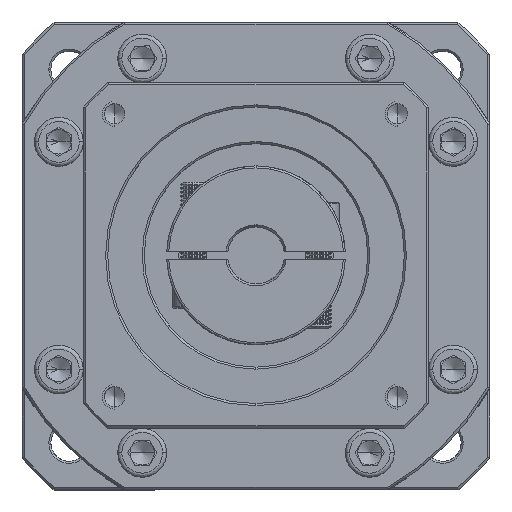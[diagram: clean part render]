
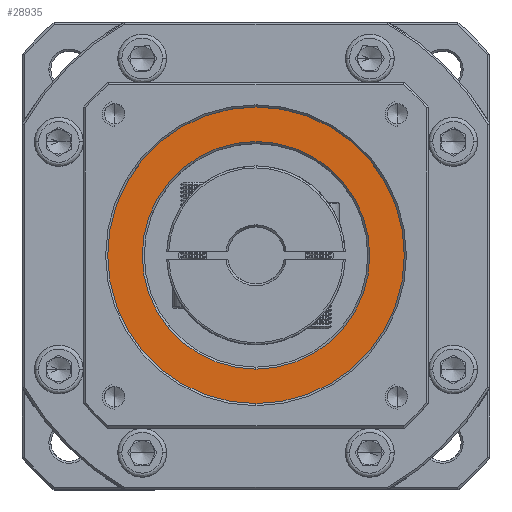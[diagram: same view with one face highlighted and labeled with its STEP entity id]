
A CAD part, top view. The second image highlights one B-rep face of the part: STEP entity #28935.
In plain terms, the highlighted planar face has unit normal (0, 0, 1).
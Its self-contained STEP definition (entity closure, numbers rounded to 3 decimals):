
#474 = DIRECTION ( 'NONE',  ( 0., 1., 0. ) ) ;
#486 = EDGE_LOOP ( 'NONE', ( #69258, #52626 ) ) ;
#774 = VERTEX_POINT ( 'NONE', #30923 ) ;
#7505 = CARTESIAN_POINT ( 'NONE',  ( 68.751, 108.954, -7.408 ) ) ;
#11921 = DIRECTION ( 'NONE',  ( 0., 1., 0. ) ) ;
#12473 = CIRCLE ( 'NONE', #138113, 28. ) ;
#14053 = EDGE_CURVE ( 'NONE', #110736, #72576, #97906, .T. ) ;
#17799 = CIRCLE ( 'NONE', #44509, 36.5 ) ;
#19306 = CARTESIAN_POINT ( 'NONE',  ( 68.751, 100.454, -7.408 ) ) ;
#20543 = CARTESIAN_POINT ( 'NONE',  ( 68.751, 72.454, -7.408 ) ) ;
#21013 = DIRECTION ( 'NONE',  ( 0., 0., 1. ) ) ;
#21826 = DIRECTION ( 'NONE',  ( 0., 0., -1. ) ) ;
#28935 = ADVANCED_FACE ( 'NONE', ( #76506, #44702 ), #52212, .T. ) ;
#30923 = CARTESIAN_POINT ( 'NONE',  ( 68.751, 35.954, -7.408 ) ) ;
#31349 = ORIENTED_EDGE ( 'NONE', *, *, #14053, .T. ) ;
#40826 = EDGE_CURVE ( 'NONE', #774, #124900, #49731, .T. ) ;
#44234 = CARTESIAN_POINT ( 'NONE',  ( 68.751, 72.454, -7.408 ) ) ;
#44509 = AXIS2_PLACEMENT_3D ( 'NONE', #20543, #21013, #474 ) ;
#44702 = FACE_BOUND ( 'NONE', #110515, .T. ) ;
#45250 = ORIENTED_EDGE ( 'NONE', *, *, #48451, .T. ) ;
#46222 = AXIS2_PLACEMENT_3D ( 'NONE', #64668, #21826, #85268 ) ;
#48451 = EDGE_CURVE ( 'NONE', #72576, #110736, #12473, .T. ) ;
#49731 = CIRCLE ( 'NONE', #52535, 36.5 ) ;
#51758 = DIRECTION ( 'NONE',  ( 0., 1., 0. ) ) ;
#52212 = PLANE ( 'NONE',  #102530 ) ;
#52535 = AXIS2_PLACEMENT_3D ( 'NONE', #44234, #129186, #74535 ) ;
#52626 = ORIENTED_EDGE ( 'NONE', *, *, #40826, .T. ) ;
#54292 = DIRECTION ( 'NONE',  ( 0., 0., -1. ) ) ;
#64668 = CARTESIAN_POINT ( 'NONE',  ( 68.751, 72.454, -7.408 ) ) ;
#65634 = EDGE_CURVE ( 'NONE', #124900, #774, #17799, .T. ) ;
#69258 = ORIENTED_EDGE ( 'NONE', *, *, #65634, .T. ) ;
#72576 = VERTEX_POINT ( 'NONE', #19306 ) ;
#74535 = DIRECTION ( 'NONE',  ( 0., 1., 0. ) ) ;
#76506 = FACE_OUTER_BOUND ( 'NONE', #486, .T. ) ;
#80862 = CARTESIAN_POINT ( 'NONE',  ( 68.751, 44.454, -7.408 ) ) ;
#85268 = DIRECTION ( 'NONE',  ( 0., 1., 0. ) ) ;
#96288 = CARTESIAN_POINT ( 'NONE',  ( 68.751, 72.454, -7.408 ) ) ;
#97906 = CIRCLE ( 'NONE', #46222, 28. ) ;
#102530 = AXIS2_PLACEMENT_3D ( 'NONE', #104941, #115709, #51758 ) ;
#104941 = CARTESIAN_POINT ( 'NONE',  ( 68.751, 72.454, -7.408 ) ) ;
#110515 = EDGE_LOOP ( 'NONE', ( #45250, #31349 ) ) ;
#110736 = VERTEX_POINT ( 'NONE', #80862 ) ;
#115709 = DIRECTION ( 'NONE',  ( 0., 0., 1. ) ) ;
#124900 = VERTEX_POINT ( 'NONE', #7505 ) ;
#129186 = DIRECTION ( 'NONE',  ( 0., 0., 1. ) ) ;
#138113 = AXIS2_PLACEMENT_3D ( 'NONE', #96288, #54292, #11921 ) ;
